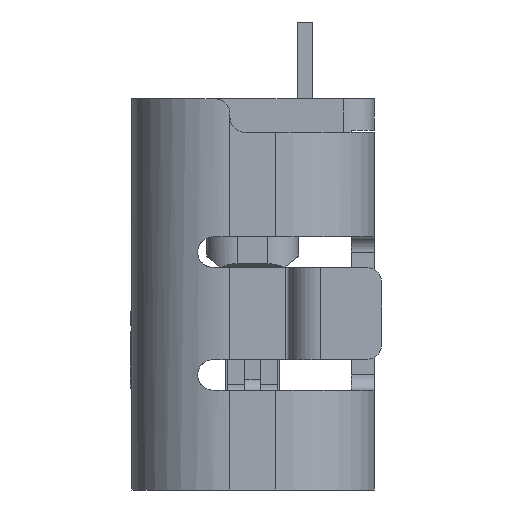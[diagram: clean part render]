
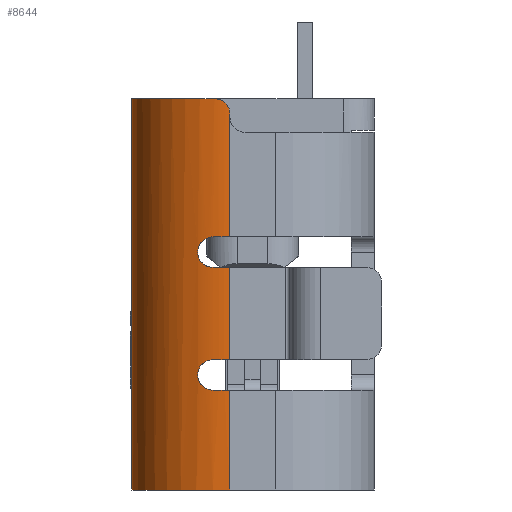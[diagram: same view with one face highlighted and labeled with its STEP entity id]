
A CAD part, left-side view. The second image highlights one B-rep face of the part: STEP entity #8644.
In plain terms, the highlighted cylindrical face has radius 1.28 mm (diameter 2.56 mm), a partial arc.
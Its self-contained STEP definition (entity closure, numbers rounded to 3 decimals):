
#1236=CARTESIAN_POINT('',(-3.19,0.295,-9.208));
#1237=DIRECTION('',(0.,0.,1.));
#1238=DIRECTION('',(0.,1.,0.));
#1239=AXIS2_PLACEMENT_3D('',#1236,#1237,#1238);
#1469=CARTESIAN_POINT('',(-3.19,0.295,-4.108));
#1470=DIRECTION('',(0.,0.,-1.));
#1471=DIRECTION('',(-0.988,0.156,0.));
#1472=AXIS2_PLACEMENT_3D('',#1469,#1470,#1471);
#1986=DIRECTION('',(0.,0.,1.));
#1987=VECTOR('',#1986,0.04);
#1988=CARTESIAN_POINT('',(-4.47,0.295,-4.348));
#1989=LINE('',#1988,#1987);
#1990=CARTESIAN_POINT('',(-4.47,0.295,-4.308));
#1991=CARTESIAN_POINT('',(-4.47,0.295,-4.29));
#1992=CARTESIAN_POINT('',(-4.47,0.3,
-4.255));
#1993=CARTESIAN_POINT('',(-4.47,0.32,
-4.206));
#1994=CARTESIAN_POINT('',(-4.469,0.353,
-4.164));
#1995=CARTESIAN_POINT('',(-4.466,0.394,
-4.132));
#1996=CARTESIAN_POINT('',(-4.462,0.443,
-4.112));
#1997=CARTESIAN_POINT('',(-4.457,0.478,
-4.108));
#1998=CARTESIAN_POINT('',(-4.454,0.495,
-4.108));
#2000=CARTESIAN_POINT('',(-4.451,0.515,
-7.508));
#2001=CARTESIAN_POINT('',(-4.448,0.535,
-7.508));
#2002=CARTESIAN_POINT('',(-4.44,0.572,
-7.513));
#2003=CARTESIAN_POINT('',(-4.427,0.627,
-7.538));
#2004=CARTESIAN_POINT('',(-4.414,0.67,
-7.577));
#2005=CARTESIAN_POINT('',(-4.404,0.701,
-7.626));
#2006=CARTESIAN_POINT('',(-4.399,0.716,
-7.681));
#2007=CARTESIAN_POINT('',(-4.399,0.715,
-7.737));
#2008=CARTESIAN_POINT('',(-4.404,0.7,
-7.79));
#2009=CARTESIAN_POINT('',(-4.414,0.67,
-7.838));
#2010=CARTESIAN_POINT('',(-4.427,0.627,
-7.877));
#2011=CARTESIAN_POINT('',(-4.44,0.572,
-7.902));
#2012=CARTESIAN_POINT('',(-4.448,0.535,
-7.908));
#2013=CARTESIAN_POINT('',(-4.451,0.515,
-7.908));
#2015=DIRECTION('',(0.,0.,1.));
#2016=VECTOR('',#2015,1.56);
#2017=CARTESIAN_POINT('',(-4.47,0.295,-5.908));
#2018=LINE('',#2017,#2016);
#2067=CARTESIAN_POINT('',(-3.19,0.295,-5.908));
#2068=DIRECTION('',(0.,0.,1.));
#2069=DIRECTION('',(-0.985,0.172,0.));
#2070=AXIS2_PLACEMENT_3D('',#2067,#2068,#2069);
#2110=CARTESIAN_POINT('',(-3.19,0.295,-7.908));
#2111=DIRECTION('',(0.,0.,-1.));
#2112=DIRECTION('',(-1.,0.,0.));
#2113=AXIS2_PLACEMENT_3D('',#2110,#2111,#2112);
#2145=DIRECTION('',(0.,0.,1.));
#2146=VECTOR('',#2145,1.3);
#2147=CARTESIAN_POINT('',(-4.47,0.295,-9.208));
#2148=LINE('',#2147,#2146);
#2199=CARTESIAN_POINT('',(-3.19,0.295,-7.508));
#2200=DIRECTION('',(0.,0.,1.));
#2201=DIRECTION('',(-0.985,0.172,0.));
#2202=AXIS2_PLACEMENT_3D('',#2199,#2200,#2201);
#2260=DIRECTION('',(0.,0.,1.));
#2261=VECTOR('',#2260,1.2);
#2262=CARTESIAN_POINT('',(-4.47,0.295,-7.508));
#2263=LINE('',#2262,#2261);
#2278=CARTESIAN_POINT('',(-3.19,0.295,-6.308));
#2279=DIRECTION('',(0.,0.,-1.));
#2280=DIRECTION('',(-1.,0.,0.));
#2281=AXIS2_PLACEMENT_3D('',#2278,#2279,#2280);
#2360=CARTESIAN_POINT('',(-4.451,0.515,
-6.308));
#2361=CARTESIAN_POINT('',(-4.448,0.534,
-6.308));
#2362=CARTESIAN_POINT('',(-4.44,0.573,
-6.302));
#2363=CARTESIAN_POINT('',(-4.427,0.626,
-6.277));
#2364=CARTESIAN_POINT('',(-4.414,0.67,
-6.239));
#2365=CARTESIAN_POINT('',(-4.404,0.7,
-6.19));
#2366=CARTESIAN_POINT('',(-4.399,0.716,
-6.136));
#2367=CARTESIAN_POINT('',(-4.399,0.716,
-6.08));
#2368=CARTESIAN_POINT('',(-4.404,0.7,
-6.026));
#2369=CARTESIAN_POINT('',(-4.414,0.67,
-5.977));
#2370=CARTESIAN_POINT('',(-4.427,0.626,
-5.938));
#2371=CARTESIAN_POINT('',(-4.44,0.573,
-5.913));
#2372=CARTESIAN_POINT('',(-4.448,0.534,
-5.908));
#2373=CARTESIAN_POINT('',(-4.451,0.515,
-5.908));
#2426=DIRECTION('',(0.,0.,-1.));
#2427=VECTOR('',#2426,0.9);
#2428=CARTESIAN_POINT('',(-3.19,1.575,
-4.108));
#2429=LINE('',#2428,#2427);
#2430=DIRECTION('',(0.,0.,-1.));
#2431=VECTOR('',#2430,4.2);
#2432=CARTESIAN_POINT('',(-3.19,1.575,
-5.008));
#2433=LINE('',#2432,#2431);
#5226=CARTESIAN_POINT('',(-3.19,1.575,
-9.208));
#5227=VERTEX_POINT('',#5226);
#5228=CARTESIAN_POINT('',(-4.47,0.295,-9.208));
#5229=VERTEX_POINT('',#5228);
#5271=CARTESIAN_POINT('',(-4.451,0.515,
-7.908));
#5273=VERTEX_POINT('',#5271);
#5294=CARTESIAN_POINT('',(-4.451,0.515,
-7.508));
#5295=VERTEX_POINT('',#5294);
#5296=VERTEX_POINT('',#1990);
#5297=VERTEX_POINT('',#1998);
#5298=CARTESIAN_POINT('',(-4.47,0.295,-4.348));
#5299=VERTEX_POINT('',#5298);
#5300=CARTESIAN_POINT('',(-4.451,0.515,
-5.908));
#5301=CARTESIAN_POINT('',(-4.47,0.295,-5.908));
#5302=VERTEX_POINT('',#5300);
#5303=VERTEX_POINT('',#5301);
#5304=VERTEX_POINT('',#2360);
#5305=CARTESIAN_POINT('',(-4.47,0.295,-6.308));
#5306=VERTEX_POINT('',#5305);
#5307=CARTESIAN_POINT('',(-4.47,0.295,-7.508));
#5308=VERTEX_POINT('',#5307);
#5309=CARTESIAN_POINT('',(-4.47,0.295,-7.908));
#5310=VERTEX_POINT('',#5309);
#5311=CARTESIAN_POINT('',(-3.19,1.575,
-5.008));
#5312=VERTEX_POINT('',#5311);
#5313=CARTESIAN_POINT('',(-3.19,1.575,
-4.108));
#5314=VERTEX_POINT('',#5313);
#8611=CARTESIAN_POINT('',(-3.19,0.295,-4.006));
#8612=DIRECTION('',(0.,0.,-1.));
#8613=DIRECTION('',(-0.999,-0.051,0.));
#8614=AXIS2_PLACEMENT_3D('',#8611,#8612,#8613);
#8615=CYLINDRICAL_SURFACE('',#8614,1.28);
#8616=ORIENTED_EDGE('',*,*,#8604,.F.);
#8617=ORIENTED_EDGE('',*,*,#8593,.F.);
#8619=ORIENTED_EDGE('',*,*,#8618,.F.);
#8621=ORIENTED_EDGE('',*,*,#8620,.F.);
#8623=ORIENTED_EDGE('',*,*,#8622,.F.);
#8625=ORIENTED_EDGE('',*,*,#8624,.F.);
#8627=ORIENTED_EDGE('',*,*,#8626,.F.);
#8629=ORIENTED_EDGE('',*,*,#8628,.F.);
#8631=ORIENTED_EDGE('',*,*,#8630,.T.);
#8633=ORIENTED_EDGE('',*,*,#8632,.F.);
#8635=ORIENTED_EDGE('',*,*,#8634,.F.);
#8636=ORIENTED_EDGE('',*,*,#7513,.F.);
#8638=ORIENTED_EDGE('',*,*,#8637,.F.);
#8640=ORIENTED_EDGE('',*,*,#8639,.F.);
#8641=ORIENTED_EDGE('',*,*,#7875,.F.);
#8642=EDGE_LOOP('',(#8616,#8617,#8619,#8621,#8623,#8625,#8627,#8629,#8631,#8633,
#8635,#8636,#8638,#8640,#8641));
#8643=FACE_OUTER_BOUND('',#8642,.F.);
#1240=CIRCLE('',#1239,1.28);
#1473=CIRCLE('',#1472,1.28);
#1999=B_SPLINE_CURVE_WITH_KNOTS('',3,(#1990,#1991,#1992,#1993,#1994,#1995,#1996,
#1997,#1998),.UNSPECIFIED.,.F.,.F.,(4,1,1,1,1,1,4),(0.,0.167,
0.333,0.5,0.667,0.833,1.),
.UNSPECIFIED.);
#2014=B_SPLINE_CURVE_WITH_KNOTS('',3,(#2000,#2001,#2002,#2003,#2004,#2005,#2006,
#2007,#2008,#2009,#2010,#2011,#2012,#2013),.UNSPECIFIED.,.F.,.F.,(4,1,1,1,1,1,1,
1,1,1,1,4),(0.,0.091,0.182,0.273,
0.364,0.455,0.545,0.636,
0.727,0.818,0.909,1.),.UNSPECIFIED.);
#2071=CIRCLE('',#2070,1.28);
#2114=CIRCLE('',#2113,1.28);
#2203=CIRCLE('',#2202,1.28);
#2282=CIRCLE('',#2281,1.28);
#2374=B_SPLINE_CURVE_WITH_KNOTS('',3,(#2360,#2361,#2362,#2363,#2364,#2365,#2366,
#2367,#2368,#2369,#2370,#2371,#2372,#2373),.UNSPECIFIED.,.F.,.F.,(4,1,1,1,1,1,1,
1,1,1,1,4),(0.,0.091,0.182,0.273,
0.364,0.455,0.545,0.636,
0.727,0.818,0.909,1.),.UNSPECIFIED.);
#7513=EDGE_CURVE('',#5227,#5229,#1240,.T.);
#7875=EDGE_CURVE('',#5297,#5314,#1473,.T.);
#8593=EDGE_CURVE('',#5299,#5296,#1989,.T.);
#8604=EDGE_CURVE('',#5296,#5297,#1999,.T.);
#8618=EDGE_CURVE('',#5303,#5299,#2018,.T.);
#8620=EDGE_CURVE('',#5302,#5303,#2071,.T.);
#8622=EDGE_CURVE('',#5304,#5302,#2374,.T.);
#8624=EDGE_CURVE('',#5306,#5304,#2282,.T.);
#8626=EDGE_CURVE('',#5308,#5306,#2263,.T.);
#8628=EDGE_CURVE('',#5295,#5308,#2203,.T.);
#8630=EDGE_CURVE('',#5295,#5273,#2014,.T.);
#8632=EDGE_CURVE('',#5310,#5273,#2114,.T.);
#8634=EDGE_CURVE('',#5229,#5310,#2148,.T.);
#8637=EDGE_CURVE('',#5312,#5227,#2433,.T.);
#8639=EDGE_CURVE('',#5314,#5312,#2429,.T.);
#8644=ADVANCED_FACE('',(#8643),#8615,.T.);
